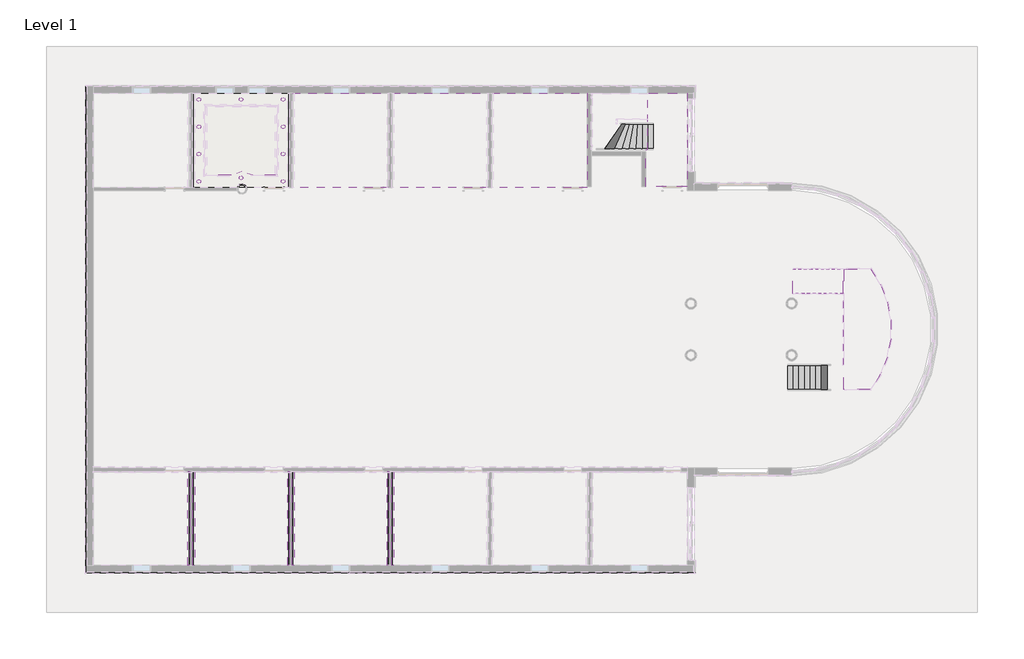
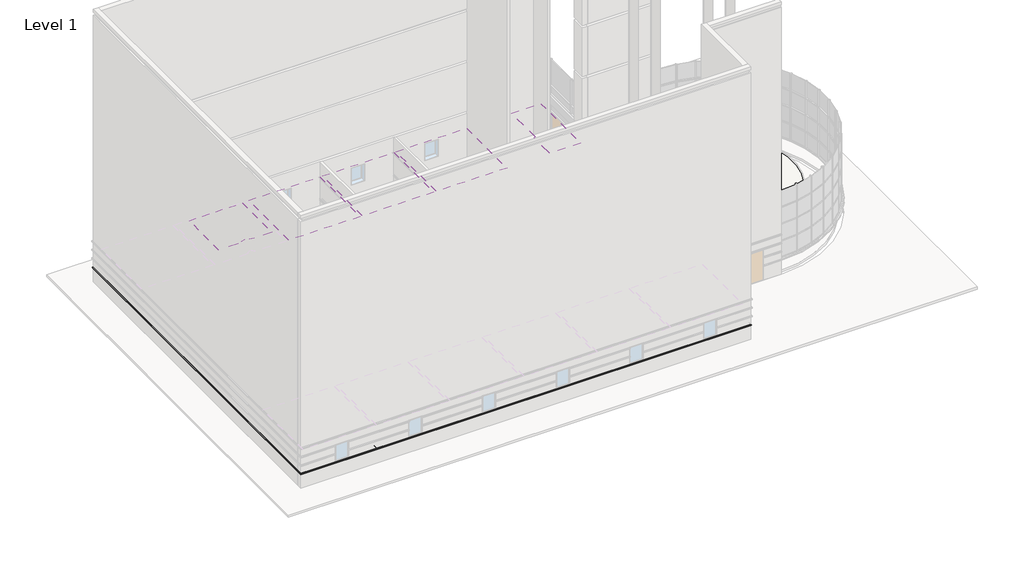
# One storey, part 16 of 20: 20 proxies, 10 light fixtures, 5 coverings, 3 stair flights, 2 slabs.
"""IFC4 building model written with IfcOpenShell, lengths in millimetres."""

from ifc_helpers import new_model, si_unit, point, frame, frame_2d, origin, place, context, project, spatial, polyline, circle_curve, trimmed, segment, composite_curve, outline, extrude, faceted_brep, transform, mapped, element, save
from components import light_fixture_0a2228b3, non_monolithic_landing_b48be56e, stair_flight_ee5305ab, stair_flight_e05df6d8, stair_flight_de9e9dea

model = new_model("IFC4")

# Units and contexts
model_context = context("Model", 3, world=origin())
ifc_project = project(units=[si_unit("LENGTHUNIT", "METRE", prefix="MILLI")], contexts=[model_context])

# Site, building, storey
site = spatial("IfcSite", under=ifc_project)
building = spatial("IfcBuilding", under=site)
storey = spatial("IfcBuildingStorey", under=building, Name="Level 1", Elevation=0.0)

# Proxies
placement = place(None, origin())
element("IfcBuildingElementProxy", 1, Name="Wall Sweeps", at=placement, inside=storey, context=model_context, shape_type="Brep", body=[
    faceted_brep([(12969.0589721, -14605.7351681, 1085.85), (13061.1339721, -14697.8101681, 1085.85), (13096.0589721, -14732.7351681, 1041.4), (13096.0589721, -14732.7351681, 1016.0), (12969.0589721, -14605.7351681, 1016.0), (-17326.7910279, -14605.7351681, 1085.85), (-17326.7910279, -14605.7351681, 1016.0), (-17453.7910279, -14732.7351681, 1016.0), (-17453.7910279, -14732.7351681, 1041.4), (-17418.8660279, -14697.8101681, 1085.85)], [[[0, 1, 2, 3, 4]], [[5, 6, 7, 8, 9]], [[1, 0, 5, 9]], [[2, 1, 9, 8]], [[3, 2, 8, 7]], [[4, 3, 7, 6]], [[0, 4, 6, 5]]]),
])
element("IfcBuildingElementProxy", 2, Name="Wall Sweeps", at=placement, inside=storey, context=model_context, shape_type="Brep", body=[
    faceted_brep([(-17326.7910279, -14605.7351681, 1085.85), (-17418.8660279, -14697.8101681, 1085.85), (-17453.7910279, -14732.7351681, 1041.4), (-17453.7910279, -14732.7351681, 1016.0), (-17326.7910279, -14605.7351681, 1016.0), (-17326.7910279, 9594.1148319, 1085.85), (-17326.7910279, 9594.1148319, 1016.0), (-17453.7910279, 9721.1148319, 1016.0), (-17453.7910279, 9721.1148319, 1041.4), (-17418.8660279, 9686.1898319, 1085.85), (-17326.7910279, -14345.3851681, 1085.85), (-17326.7910279, -14345.3851681, 1016.0)], [[[0, 1, 2, 3, 4]], [[5, 6, 7, 8, 9]], [[1, 0, 10, 5, 9]], [[2, 1, 9, 8]], [[3, 2, 8, 7]], [[4, 3, 7, 6, 11]], [[0, 4, 11, 6, 5, 10]]]),
])
element("IfcBuildingElementProxy", 3, Name="Wall Sweeps", at=placement, inside=storey, context=model_context, shape_type="SweptSolid", body=[
    extrude(outline(composite_curve([segment(polyline([(146.05, -12256.8451947), (0.0, -12256.8451947), (0.0, -12240.9701946), (25.4, -12240.9701946), (26.9875, -12242.5576946), (138.1125, -12242.5576946), (139.7, -12240.9701946), (184.15, -12240.9701946), (184.15, -12247.3201946), (178.4425393, -12249.7662491)]), True, "CONTINUOUS"), segment(trimmed(circle_curve(frame_2d((173.434375, -12253.6701946)), 6.35), [point((178.4425393, -12249.7662491))], [point((169.9015472, -12248.3936779))], True, "CARTESIAN"), True, "CONTINUOUS"), segment(polyline([(169.9015472, -12248.3936779), (159.8244174, -12255.2349707)]), True, "CONTINUOUS"), segment(trimmed(circle_curve(frame_2d((154.447453, -12247.3201946)), 9.5684601), [point((159.8244174, -12255.2349707))], [point((147.838329, -12254.2393642))], False, "CARTESIAN"), True, "CONTINUOUS"), segment(trimmed(circle_curve(frame_2d((147.2928122, -12254.8159494)), 0.79375), [point((147.838329, -12254.2393642))], [point((146.5164076, -12254.6509195))], True, "CARTESIAN"), True, "CONTINUOUS"), segment(polyline([(146.5164076, -12254.6509195), (146.05, -12256.8451947)]), True, "CONTINUOUS")], self_intersect=False)), frame((0.0, -14345.3851681, 0.0), z_axis=(0.0, 1.0, 0.0), x_axis=(0.0, 0.0, 1.0)), (0.0, 0.0, 1.0), 4721.225),
])
element("IfcBuildingElementProxy", 4, Name="Wall Sweeps", at=placement, inside=storey, context=model_context, shape_type="SweptSolid", body=[
    extrude(outline(composite_curve([segment(polyline([(146.05, -12069.5201944), (146.5164076, -12071.7144696)]), True, "CONTINUOUS"), segment(trimmed(circle_curve(frame_2d((147.2928122, -12071.5494397)), 0.79375), [point((146.5164076, -12071.7144696))], [point((147.838329, -12072.126025))], True, "CARTESIAN"), True, "CONTINUOUS"), segment(trimmed(circle_curve(frame_2d((154.447453, -12079.0451946)), 9.5684601), [point((147.838329, -12072.126025))], [point((159.8244174, -12071.1304184))], False, "CARTESIAN"), True, "CONTINUOUS"), segment(polyline([(159.8244174, -12071.1304184), (169.9015472, -12077.9717112)]), True, "CONTINUOUS"), segment(trimmed(circle_curve(frame_2d((173.434375, -12072.6951946)), 6.35), [point((169.9015472, -12077.9717112))], [point((178.4425393, -12076.59914))], True, "CARTESIAN"), True, "CONTINUOUS"), segment(polyline([(178.4425393, -12076.59914), (184.15, -12079.0451946), (184.15, -12085.3951946), (139.7, -12085.3951946), (138.1125, -12083.8076946), (26.9875, -12083.8076946), (25.4, -12085.3951946), (0.0, -12085.3951946), (0.0, -12069.5201944), (146.05, -12069.5201944)]), True, "CONTINUOUS")], self_intersect=False)), frame((0.0, -14345.3851681, 0.0), z_axis=(0.0, 1.0, 0.0), x_axis=(0.0, 0.0, 1.0)), (0.0, 0.0, 1.0), 4721.225),
])
element("IfcBuildingElementProxy", 5, Name="Wall Sweeps", at=placement, inside=storey, context=model_context, shape_type="SweptSolid", body=[
    extrude(outline(composite_curve([segment(polyline([(781.05, -12242.5576946), (882.65, -12242.5576946), (884.2375, -12240.9701946), (901.7, -12240.9701946), (901.7, -12261.6076946), (882.65, -12261.6076946), (882.65, -12259.2264446)]), True, "CONTINUOUS"), segment(trimmed(circle_curve(frame_2d((880.26875, -12254.2063288)), 5.55625), [point((882.65, -12259.2264446))], [point((876.3398879, -12258.1351908))], False, "CARTESIAN"), True, "CONTINUOUS"), segment(trimmed(circle_curve(frame_2d((867.5864328, -12265.9220138)), 11.7156984), [point((876.3398879, -12258.1351908))], [point((867.56875, -12254.2063288))], True, "CARTESIAN"), True, "CONTINUOUS"), segment(polyline([(867.56875, -12254.2063288), (867.56875, -12252.0826946), (796.13125, -12252.0826946), (796.13125, -12254.2063288)]), True, "CONTINUOUS"), segment(trimmed(circle_curve(frame_2d((796.1135672, -12265.9220138)), 11.7156984), [point((796.13125, -12254.2063288))], [point((787.3601121, -12258.1351908))], True, "CARTESIAN"), True, "CONTINUOUS"), segment(trimmed(circle_curve(frame_2d((783.43125, -12254.2063288)), 5.55625), [point((787.3601121, -12258.1351908))], [point((781.05, -12259.2264446))], False, "CARTESIAN"), True, "CONTINUOUS"), segment(polyline([(781.05, -12259.2264446), (781.05, -12261.6076946), (762.0, -12261.6076946), (762.0, -12240.9701946), (779.4625, -12240.9701946), (781.05, -12242.5576946)]), True, "CONTINUOUS")], self_intersect=False)), frame((0.0, -14345.3851681, 0.0), z_axis=(0.0, 1.0, 0.0), x_axis=(0.0, 0.0, 1.0)), (0.0, 0.0, 1.0), 4721.225),
])
element("IfcBuildingElementProxy", 6, Name="Wall Sweeps", at=placement, inside=storey, context=model_context, shape_type="SweptSolid", body=[
    extrude(outline(composite_curve([segment(polyline([(781.05, -12083.8076946), (779.4625, -12085.3951946), (762.0, -12085.3951946), (762.0, -12064.7576946), (781.05, -12064.7576946), (781.05, -12067.1389446)]), True, "CONTINUOUS"), segment(trimmed(circle_curve(frame_2d((783.43125, -12072.1590603)), 5.55625), [point((781.05, -12067.1389446))], [point((787.3601121, -12068.2301983))], False, "CARTESIAN"), True, "CONTINUOUS"), segment(trimmed(circle_curve(frame_2d((796.1135672, -12060.4433753)), 11.7156984), [point((787.3601121, -12068.2301983))], [point((796.13125, -12072.1590603))], True, "CARTESIAN"), True, "CONTINUOUS"), segment(polyline([(796.13125, -12072.1590603), (796.13125, -12074.2826946), (867.56875, -12074.2826946), (867.56875, -12072.1590603)]), True, "CONTINUOUS"), segment(trimmed(circle_curve(frame_2d((867.5864328, -12060.4433753)), 11.7156984), [point((867.56875, -12072.1590603))], [point((876.3398879, -12068.2301983))], True, "CARTESIAN"), True, "CONTINUOUS"), segment(trimmed(circle_curve(frame_2d((880.26875, -12072.1590603)), 5.55625), [point((876.3398879, -12068.2301983))], [point((882.65, -12067.1389446))], False, "CARTESIAN"), True, "CONTINUOUS"), segment(polyline([(882.65, -12067.1389446), (882.65, -12064.7576946), (901.7, -12064.7576946), (901.7, -12085.3951946), (884.2375, -12085.3951946), (882.65, -12083.8076946), (781.05, -12083.8076946)]), True, "CONTINUOUS")], self_intersect=False)), frame((0.0, -14345.3851681, 0.0), z_axis=(0.0, 1.0, 0.0), x_axis=(0.0, 0.0, 1.0)), (0.0, 0.0, 1.0), 4721.225),
])
element("IfcBuildingElementProxy", 7, Name="Wall Sweeps", at=placement, inside=storey, context=model_context, shape_type="SweptSolid", body=[
    extrude(outline(composite_curve([segment(polyline([(2438.399973, -12309.1633571), (2438.399973, -12329.8701946), (2431.2481102, -12329.8701946), (2431.2481102, -12327.3548352)]), True, "CONTINUOUS"), segment(trimmed(circle_curve(frame_2d((2423.9641253, -12331.1893356)), 8.2316359), [point((2431.2481102, -12327.3548352))], [point((2427.7986257, -12323.9053507))], True, "CARTESIAN"), True, "CONTINUOUS"), segment(trimmed(circle_curve(frame_2d((2429.6314026, -12316.0499845)), 8.0663405), [point((2427.7986257, -12323.9053507))], [point((2421.6202934, -12315.1076578))], False, "CARTESIAN"), True, "CONTINUOUS"), segment(polyline([(2421.6202934, -12315.1076578), (2421.6202934, -12312.339094), (2416.1698146, -12312.339094)]), True, "CONTINUOUS"), segment(trimmed(circle_curve(frame_2d((2417.0589994, -12290.5017471)), 21.8554426), [point((2416.1698146, -12312.339094))], [point((2396.8442936, -12298.8099384))], False, "CARTESIAN"), True, "CONTINUOUS"), segment(polyline([(2396.8442936, -12298.8099384), (2392.1194168, -12291.5677091)]), True, "CONTINUOUS"), segment(trimmed(circle_curve(frame_2d((2350.2346746, -12313.0198493)), 47.0587499), [point((2392.1194168, -12291.5677091))], [point((2353.4554653, -12266.0714473))], True, "CARTESIAN"), True, "CONTINUOUS"), segment(polyline([(2353.4554653, -12266.0714473), (2353.4554653, -12262.8440724), (2348.4207604, -12262.8440724), (2348.4207604, -12259.2552315)]), True, "CONTINUOUS"), segment(trimmed(circle_curve(frame_2d((2347.9606001, -12248.767665)), 10.4976568), [point((2348.4207604, -12259.2552315))], [point((2338.0157037, -12252.1291877))], False, "CARTESIAN"), True, "CONTINUOUS"), segment(polyline([(2338.0157037, -12252.1291877), (2333.7297498, -12252.1291877)]), True, "CONTINUOUS"), segment(trimmed(circle_curve(frame_2d((2327.2589154, -12255.4064811)), 7.2534372), [point((2333.7297498, -12252.1291877))], [point((2327.275, -12248.1530618))], True, "CARTESIAN"), True, "CONTINUOUS"), segment(polyline([(2327.275, -12248.1530618), (2327.275, -12240.9701946), (2351.8919306, -12240.9701946), (2438.399973, -12309.1633571)]), True, "CONTINUOUS")], self_intersect=False)), frame((0.0, -14345.3851681, 0.0), z_axis=(0.0, 1.0, 0.0), x_axis=(0.0, 0.0, 1.0)), (0.0, 0.0, 1.0), 4721.225),
])
element("IfcBuildingElementProxy", 8, Name="Wall Sweeps", at=placement, inside=storey, context=model_context, shape_type="SweptSolid", body=[
    extrude(outline(composite_curve([segment(polyline([(2438.399973, -12017.202032), (2351.8919306, -12085.3951946), (2327.275, -12085.3951946), (2327.275, -12078.2123274)]), True, "CONTINUOUS"), segment(trimmed(circle_curve(frame_2d((2327.2589154, -12070.958908)), 7.2534372), [point((2327.275, -12078.2123274))], [point((2333.7297498, -12074.2362015))], True, "CARTESIAN"), True, "CONTINUOUS"), segment(polyline([(2333.7297498, -12074.2362015), (2338.0157037, -12074.2362015)]), True, "CONTINUOUS"), segment(trimmed(circle_curve(frame_2d((2347.9606001, -12077.5977241)), 10.4976568), [point((2338.0157037, -12074.2362015))], [point((2348.4207604, -12067.1101577))], False, "CARTESIAN"), True, "CONTINUOUS"), segment(polyline([(2348.4207604, -12067.1101577), (2348.4207604, -12063.5213168), (2353.4554653, -12063.5213168), (2353.4554653, -12060.2939418)]), True, "CONTINUOUS"), segment(trimmed(circle_curve(frame_2d((2350.2346746, -12013.3455399)), 47.0587499), [point((2353.4554653, -12060.2939418))], [point((2392.1194168, -12034.79768))], True, "CARTESIAN"), True, "CONTINUOUS"), segment(polyline([(2392.1194168, -12034.79768), (2396.8442936, -12027.5554507)]), True, "CONTINUOUS"), segment(trimmed(circle_curve(frame_2d((2417.0589994, -12035.863642)), 21.8554426), [point((2396.8442936, -12027.5554507))], [point((2416.1698146, -12014.0262951))], False, "CARTESIAN"), True, "CONTINUOUS"), segment(polyline([(2416.1698146, -12014.0262951), (2421.6202934, -12014.0262951), (2421.6202934, -12011.2577313)]), True, "CONTINUOUS"), segment(trimmed(circle_curve(frame_2d((2429.6314026, -12010.3154046)), 8.0663405), [point((2421.6202934, -12011.2577313))], [point((2427.7986257, -12002.4600384))], False, "CARTESIAN"), True, "CONTINUOUS"), segment(trimmed(circle_curve(frame_2d((2423.9641253, -11995.1760535)), 8.2316359), [point((2427.7986257, -12002.4600384))], [point((2431.2481102, -11999.010554))], True, "CARTESIAN"), True, "CONTINUOUS"), segment(polyline([(2431.2481102, -11999.010554), (2431.2481102, -11996.4951946), (2438.399973, -11996.4951946), (2438.399973, -12017.202032)]), True, "CONTINUOUS")], self_intersect=False)), frame((0.0, -14345.3851681, 0.0), z_axis=(0.0, 1.0, 0.0), x_axis=(0.0, 0.0, 1.0)), (0.0, 0.0, 1.0), 4721.225),
])
element("IfcBuildingElementProxy", 9, Name="Wall Sweeps", at=placement, inside=storey, context=model_context, shape_type="SweptSolid", body=[
    extrude(outline(composite_curve([segment(polyline([(146.05, -7264.6868613), (0.0, -7264.6868613), (0.0, -7248.8118612), (25.4, -7248.8118612), (26.9875, -7250.3993612), (138.1125, -7250.3993612), (139.7, -7248.8118612), (184.15, -7248.8118612), (184.15, -7255.1618612), (178.4425393, -7257.6079158)]), True, "CONTINUOUS"), segment(trimmed(circle_curve(frame_2d((173.434375, -7261.5118612)), 6.35), [point((178.4425393, -7257.6079158))], [point((169.9015472, -7256.2353446))], True, "CARTESIAN"), True, "CONTINUOUS"), segment(polyline([(169.9015472, -7256.2353446), (159.8244174, -7263.0766374)]), True, "CONTINUOUS"), segment(trimmed(circle_curve(frame_2d((154.447453, -7255.1618612)), 9.5684601), [point((159.8244174, -7263.0766374))], [point((147.838329, -7262.0810308))], False, "CARTESIAN"), True, "CONTINUOUS"), segment(trimmed(circle_curve(frame_2d((147.2928122, -7262.6576161)), 0.79375), [point((147.838329, -7262.0810308))], [point((146.5164076, -7262.4925862))], True, "CARTESIAN"), True, "CONTINUOUS"), segment(polyline([(146.5164076, -7262.4925862), (146.05, -7264.6868613)]), True, "CONTINUOUS")], self_intersect=False)), frame((0.0, -14345.3851681, 0.0), z_axis=(0.0, 1.0, 0.0), x_axis=(0.0, 0.0, 1.0)), (0.0, 0.0, 1.0), 4721.225),
])
element("IfcBuildingElementProxy", 10, Name="Wall Sweeps", at=placement, inside=storey, context=model_context, shape_type="SweptSolid", body=[
    extrude(outline(composite_curve([segment(polyline([(146.05, -7077.3618611), (146.5164076, -7079.5561363)]), True, "CONTINUOUS"), segment(trimmed(circle_curve(frame_2d((147.2928122, -7079.3911064)), 0.79375), [point((146.5164076, -7079.5561363))], [point((147.838329, -7079.9676916))], True, "CARTESIAN"), True, "CONTINUOUS"), segment(trimmed(circle_curve(frame_2d((154.447453, -7086.8868612)), 9.5684601), [point((147.838329, -7079.9676916))], [point((159.8244174, -7078.972085))], False, "CARTESIAN"), True, "CONTINUOUS"), segment(polyline([(159.8244174, -7078.972085), (169.9015472, -7085.8133779)]), True, "CONTINUOUS"), segment(trimmed(circle_curve(frame_2d((173.434375, -7080.5368612)), 6.35), [point((169.9015472, -7085.8133779))], [point((178.4425393, -7084.4408067))], True, "CARTESIAN"), True, "CONTINUOUS"), segment(polyline([(178.4425393, -7084.4408067), (184.15, -7086.8868612), (184.15, -7093.2368612), (139.7, -7093.2368612), (138.1125, -7091.6493612), (26.9875, -7091.6493612), (25.4, -7093.2368612), (0.0, -7093.2368612), (0.0, -7077.3618611), (146.05, -7077.3618611)]), True, "CONTINUOUS")], self_intersect=False)), frame((0.0, -14345.3851681, 0.0), z_axis=(0.0, 1.0, 0.0), x_axis=(0.0, 0.0, 1.0)), (0.0, 0.0, 1.0), 4721.225),
])
element("IfcBuildingElementProxy", 11, Name="Wall Sweeps", at=placement, inside=storey, context=model_context, shape_type="SweptSolid", body=[
    extrude(outline(composite_curve([segment(polyline([(781.05, -7250.3993612), (882.65, -7250.3993612), (884.2375, -7248.8118612), (901.7, -7248.8118612), (901.7, -7269.4493612), (882.65, -7269.4493612), (882.65, -7267.0681112)]), True, "CONTINUOUS"), segment(trimmed(circle_curve(frame_2d((880.26875, -7262.0479954)), 5.55625), [point((882.65, -7267.0681112))], [point((876.3398879, -7265.9768575))], False, "CARTESIAN"), True, "CONTINUOUS"), segment(trimmed(circle_curve(frame_2d((867.5864328, -7273.7636805)), 11.7156984), [point((876.3398879, -7265.9768575))], [point((867.56875, -7262.0479954))], True, "CARTESIAN"), True, "CONTINUOUS"), segment(polyline([(867.56875, -7262.0479954), (867.56875, -7259.9243612), (796.13125, -7259.9243612), (796.13125, -7262.0479954)]), True, "CONTINUOUS"), segment(trimmed(circle_curve(frame_2d((796.1135672, -7273.7636805)), 11.7156984), [point((796.13125, -7262.0479954))], [point((787.3601121, -7265.9768575))], True, "CARTESIAN"), True, "CONTINUOUS"), segment(trimmed(circle_curve(frame_2d((783.43125, -7262.0479954)), 5.55625), [point((787.3601121, -7265.9768575))], [point((781.05, -7267.0681112))], False, "CARTESIAN"), True, "CONTINUOUS"), segment(polyline([(781.05, -7267.0681112), (781.05, -7269.4493612), (762.0, -7269.4493612), (762.0, -7248.8118612), (779.4625, -7248.8118612), (781.05, -7250.3993612)]), True, "CONTINUOUS")], self_intersect=False)), frame((0.0, -14345.3851681, 0.0), z_axis=(0.0, 1.0, 0.0), x_axis=(0.0, 0.0, 1.0)), (0.0, 0.0, 1.0), 4721.225),
])
element("IfcBuildingElementProxy", 12, Name="Wall Sweeps", at=placement, inside=storey, context=model_context, shape_type="SweptSolid", body=[
    extrude(outline(composite_curve([segment(polyline([(781.05, -7091.6493612), (779.4625, -7093.2368612), (762.0, -7093.2368612), (762.0, -7072.5993612), (781.05, -7072.5993612), (781.05, -7074.9806112)]), True, "CONTINUOUS"), segment(trimmed(circle_curve(frame_2d((783.43125, -7080.000727)), 5.55625), [point((781.05, -7074.9806112))], [point((787.3601121, -7076.071865))], False, "CARTESIAN"), True, "CONTINUOUS"), segment(trimmed(circle_curve(frame_2d((796.1135672, -7068.285042)), 11.7156984), [point((787.3601121, -7076.071865))], [point((796.13125, -7080.000727))], True, "CARTESIAN"), True, "CONTINUOUS"), segment(polyline([(796.13125, -7080.000727), (796.13125, -7082.1243612), (867.56875, -7082.1243612), (867.56875, -7080.000727)]), True, "CONTINUOUS"), segment(trimmed(circle_curve(frame_2d((867.5864328, -7068.285042)), 11.7156984), [point((867.56875, -7080.000727))], [point((876.3398879, -7076.071865))], True, "CARTESIAN"), True, "CONTINUOUS"), segment(trimmed(circle_curve(frame_2d((880.26875, -7080.000727)), 5.55625), [point((876.3398879, -7076.071865))], [point((882.65, -7074.9806112))], False, "CARTESIAN"), True, "CONTINUOUS"), segment(polyline([(882.65, -7074.9806112), (882.65, -7072.5993612), (901.7, -7072.5993612), (901.7, -7093.2368612), (884.2375, -7093.2368612), (882.65, -7091.6493612), (781.05, -7091.6493612)]), True, "CONTINUOUS")], self_intersect=False)), frame((0.0, -14345.3851681, 0.0), z_axis=(0.0, 1.0, 0.0), x_axis=(0.0, 0.0, 1.0)), (0.0, 0.0, 1.0), 4721.225),
])
element("IfcBuildingElementProxy", 13, Name="Wall Sweeps", at=placement, inside=storey, context=model_context, shape_type="SweptSolid", body=[
    extrude(outline(composite_curve([segment(polyline([(2438.399973, -7317.0050238), (2438.399973, -7337.7118612), (2431.2481102, -7337.7118612), (2431.2481102, -7335.1965018)]), True, "CONTINUOUS"), segment(trimmed(circle_curve(frame_2d((2423.9641253, -7339.0310023)), 8.2316359), [point((2431.2481102, -7335.1965018))], [point((2427.7986257, -7331.7470174))], True, "CARTESIAN"), True, "CONTINUOUS"), segment(trimmed(circle_curve(frame_2d((2429.6314026, -7323.8916512)), 8.0663405), [point((2427.7986257, -7331.7470174))], [point((2421.6202934, -7322.9493245))], False, "CARTESIAN"), True, "CONTINUOUS"), segment(polyline([(2421.6202934, -7322.9493245), (2421.6202934, -7320.1807607), (2416.1698146, -7320.1807607)]), True, "CONTINUOUS"), segment(trimmed(circle_curve(frame_2d((2417.0589994, -7298.3434138)), 21.8554426), [point((2416.1698146, -7320.1807607))], [point((2396.8442936, -7306.6516051))], False, "CARTESIAN"), True, "CONTINUOUS"), segment(polyline([(2396.8442936, -7306.6516051), (2392.1194168, -7299.4093758)]), True, "CONTINUOUS"), segment(trimmed(circle_curve(frame_2d((2350.2346746, -7320.8615159)), 47.0587499), [point((2392.1194168, -7299.4093758))], [point((2353.4554653, -7273.9131139))], True, "CARTESIAN"), True, "CONTINUOUS"), segment(polyline([(2353.4554653, -7273.9131139), (2353.4554653, -7270.685739), (2348.4207604, -7270.685739), (2348.4207604, -7267.0968981)]), True, "CONTINUOUS"), segment(trimmed(circle_curve(frame_2d((2347.9606001, -7256.6093317)), 10.4976568), [point((2348.4207604, -7267.0968981))], [point((2338.0157037, -7259.9708543))], False, "CARTESIAN"), True, "CONTINUOUS"), segment(polyline([(2338.0157037, -7259.9708543), (2333.7297498, -7259.9708543)]), True, "CONTINUOUS"), segment(trimmed(circle_curve(frame_2d((2327.2589154, -7263.2481478)), 7.2534372), [point((2333.7297498, -7259.9708543))], [point((2327.275, -7255.9947284))], True, "CARTESIAN"), True, "CONTINUOUS"), segment(polyline([(2327.275, -7255.9947284), (2327.275, -7248.8118612), (2351.8919306, -7248.8118612), (2438.399973, -7317.0050238)]), True, "CONTINUOUS")], self_intersect=False)), frame((0.0, -14345.3851681, 0.0), z_axis=(0.0, 1.0, 0.0), x_axis=(0.0, 0.0, 1.0)), (0.0, 0.0, 1.0), 4721.225),
])
element("IfcBuildingElementProxy", 14, Name="Wall Sweeps", at=placement, inside=storey, context=model_context, shape_type="SweptSolid", body=[
    extrude(outline(composite_curve([segment(polyline([(2438.399973, -7025.0436987), (2351.8919306, -7093.2368612), (2327.275, -7093.2368612), (2327.275, -7086.053994)]), True, "CONTINUOUS"), segment(trimmed(circle_curve(frame_2d((2327.2589154, -7078.8005747)), 7.2534372), [point((2327.275, -7086.053994))], [point((2333.7297498, -7082.0778681))], True, "CARTESIAN"), True, "CONTINUOUS"), segment(polyline([(2333.7297498, -7082.0778681), (2338.0157037, -7082.0778681)]), True, "CONTINUOUS"), segment(trimmed(circle_curve(frame_2d((2347.9606001, -7085.4393908)), 10.4976568), [point((2338.0157037, -7082.0778681))], [point((2348.4207604, -7074.9518243))], False, "CARTESIAN"), True, "CONTINUOUS"), segment(polyline([(2348.4207604, -7074.9518243), (2348.4207604, -7071.3629834), (2353.4554653, -7071.3629834), (2353.4554653, -7068.1356085)]), True, "CONTINUOUS"), segment(trimmed(circle_curve(frame_2d((2350.2346746, -7021.1872065)), 47.0587499), [point((2353.4554653, -7068.1356085))], [point((2392.1194168, -7042.6393467))], True, "CARTESIAN"), True, "CONTINUOUS"), segment(polyline([(2392.1194168, -7042.6393467), (2396.8442936, -7035.3971174)]), True, "CONTINUOUS"), segment(trimmed(circle_curve(frame_2d((2417.0589994, -7043.7053087)), 21.8554426), [point((2396.8442936, -7035.3971174))], [point((2416.1698146, -7021.8679618))], False, "CARTESIAN"), True, "CONTINUOUS"), segment(polyline([(2416.1698146, -7021.8679618), (2421.6202934, -7021.8679618), (2421.6202934, -7019.099398)]), True, "CONTINUOUS"), segment(trimmed(circle_curve(frame_2d((2429.6314026, -7018.1570713)), 8.0663405), [point((2421.6202934, -7019.099398))], [point((2427.7986257, -7010.3017051))], False, "CARTESIAN"), True, "CONTINUOUS"), segment(trimmed(circle_curve(frame_2d((2423.9641253, -7003.0177202)), 8.2316359), [point((2427.7986257, -7010.3017051))], [point((2431.2481102, -7006.8522206))], True, "CARTESIAN"), True, "CONTINUOUS"), segment(polyline([(2431.2481102, -7006.8522206), (2431.2481102, -7004.3368612), (2438.399973, -7004.3368612), (2438.399973, -7025.0436987)]), True, "CONTINUOUS")], self_intersect=False)), frame((0.0, -14345.3851681, 0.0), z_axis=(0.0, 1.0, 0.0), x_axis=(0.0, 0.0, 1.0)), (0.0, 0.0, 1.0), 4721.225),
])
element("IfcBuildingElementProxy", 15, Name="Wall Sweeps", at=placement, inside=storey, context=model_context, shape_type="SweptSolid", body=[
    extrude(outline(composite_curve([segment(polyline([(146.05, -2272.528528), (0.0, -2272.528528), (0.0, -2256.6535279), (25.4, -2256.6535279), (26.9875, -2258.2410279), (138.1125, -2258.2410279), (139.7, -2256.6535279), (184.15, -2256.6535279), (184.15, -2263.0035279), (178.4425393, -2265.4495825)]), True, "CONTINUOUS"), segment(trimmed(circle_curve(frame_2d((173.434375, -2269.3535279)), 6.35), [point((178.4425393, -2265.4495825))], [point((169.9015472, -2264.0770113))], True, "CARTESIAN"), True, "CONTINUOUS"), segment(polyline([(169.9015472, -2264.0770113), (159.8244174, -2270.9183041)]), True, "CONTINUOUS"), segment(trimmed(circle_curve(frame_2d((154.447453, -2263.0035279)), 9.5684601), [point((159.8244174, -2270.9183041))], [point((147.838329, -2269.9226975))], False, "CARTESIAN"), True, "CONTINUOUS"), segment(trimmed(circle_curve(frame_2d((147.2928122, -2270.4992828)), 0.79375), [point((147.838329, -2269.9226975))], [point((146.5164076, -2270.3342529))], True, "CARTESIAN"), True, "CONTINUOUS"), segment(polyline([(146.5164076, -2270.3342529), (146.05, -2272.528528)]), True, "CONTINUOUS")], self_intersect=False)), frame((0.0, -14345.3851681, 0.0), z_axis=(0.0, 1.0, 0.0), x_axis=(0.0, 0.0, 1.0)), (0.0, 0.0, 1.0), 4721.225),
])
element("IfcBuildingElementProxy", 16, Name="Wall Sweeps", at=placement, inside=storey, context=model_context, shape_type="SweptSolid", body=[
    extrude(outline(composite_curve([segment(polyline([(146.05, -2085.2035278), (146.5164076, -2087.3978029)]), True, "CONTINUOUS"), segment(trimmed(circle_curve(frame_2d((147.2928122, -2087.232773)), 0.79375), [point((146.5164076, -2087.3978029))], [point((147.838329, -2087.8093583))], True, "CARTESIAN"), True, "CONTINUOUS"), segment(trimmed(circle_curve(frame_2d((154.447453, -2094.7285279)), 9.5684601), [point((147.838329, -2087.8093583))], [point((159.8244174, -2086.8137517))], False, "CARTESIAN"), True, "CONTINUOUS"), segment(polyline([(159.8244174, -2086.8137517), (169.9015472, -2093.6550445)]), True, "CONTINUOUS"), segment(trimmed(circle_curve(frame_2d((173.434375, -2088.3785279)), 6.35), [point((169.9015472, -2093.6550445))], [point((178.4425393, -2092.2824733))], True, "CARTESIAN"), True, "CONTINUOUS"), segment(polyline([(178.4425393, -2092.2824733), (184.15, -2094.7285279), (184.15, -2101.0785279), (139.7, -2101.0785279), (138.1125, -2099.4910279), (26.9875, -2099.4910279), (25.4, -2101.0785279), (0.0, -2101.0785279), (0.0, -2085.2035278), (146.05, -2085.2035278)]), True, "CONTINUOUS")], self_intersect=False)), frame((0.0, -14345.3851681, 0.0), z_axis=(0.0, 1.0, 0.0), x_axis=(0.0, 0.0, 1.0)), (0.0, 0.0, 1.0), 4721.225),
])
element("IfcBuildingElementProxy", 17, Name="Wall Sweeps", at=placement, inside=storey, context=model_context, shape_type="SweptSolid", body=[
    extrude(outline(composite_curve([segment(polyline([(781.05, -2258.2410279), (882.65, -2258.2410279), (884.2375, -2256.6535279), (901.7, -2256.6535279), (901.7, -2277.2910279), (882.65, -2277.2910279), (882.65, -2274.9097779)]), True, "CONTINUOUS"), segment(trimmed(circle_curve(frame_2d((880.26875, -2269.8896621)), 5.55625), [point((882.65, -2274.9097779))], [point((876.3398879, -2273.8185242))], False, "CARTESIAN"), True, "CONTINUOUS"), segment(trimmed(circle_curve(frame_2d((867.5864328, -2281.6053472)), 11.7156984), [point((876.3398879, -2273.8185242))], [point((867.56875, -2269.8896621))], True, "CARTESIAN"), True, "CONTINUOUS"), segment(polyline([(867.56875, -2269.8896621), (867.56875, -2267.7660279), (796.13125, -2267.7660279), (796.13125, -2269.8896621)]), True, "CONTINUOUS"), segment(trimmed(circle_curve(frame_2d((796.1135672, -2281.6053472)), 11.7156984), [point((796.13125, -2269.8896621))], [point((787.3601121, -2273.8185242))], True, "CARTESIAN"), True, "CONTINUOUS"), segment(trimmed(circle_curve(frame_2d((783.43125, -2269.8896621)), 5.55625), [point((787.3601121, -2273.8185242))], [point((781.05, -2274.9097779))], False, "CARTESIAN"), True, "CONTINUOUS"), segment(polyline([(781.05, -2274.9097779), (781.05, -2277.2910279), (762.0, -2277.2910279), (762.0, -2256.6535279), (779.4625, -2256.6535279), (781.05, -2258.2410279)]), True, "CONTINUOUS")], self_intersect=False)), frame((0.0, -14345.3851681, 0.0), z_axis=(0.0, 1.0, 0.0), x_axis=(0.0, 0.0, 1.0)), (0.0, 0.0, 1.0), 4721.225),
])
element("IfcBuildingElementProxy", 18, Name="Wall Sweeps", at=placement, inside=storey, context=model_context, shape_type="SweptSolid", body=[
    extrude(outline(composite_curve([segment(polyline([(781.05, -2099.4910279), (779.4625, -2101.0785279), (762.0, -2101.0785279), (762.0, -2080.4410279), (781.05, -2080.4410279), (781.05, -2082.8222779)]), True, "CONTINUOUS"), segment(trimmed(circle_curve(frame_2d((783.43125, -2087.8423937)), 5.55625), [point((781.05, -2082.8222779))], [point((787.3601121, -2083.9135316))], False, "CARTESIAN"), True, "CONTINUOUS"), segment(trimmed(circle_curve(frame_2d((796.1135672, -2076.1267086)), 11.7156984), [point((787.3601121, -2083.9135316))], [point((796.13125, -2087.8423937))], True, "CARTESIAN"), True, "CONTINUOUS"), segment(polyline([(796.13125, -2087.8423937), (796.13125, -2089.9660279), (867.56875, -2089.9660279), (867.56875, -2087.8423937)]), True, "CONTINUOUS"), segment(trimmed(circle_curve(frame_2d((867.5864328, -2076.1267086)), 11.7156984), [point((867.56875, -2087.8423937))], [point((876.3398879, -2083.9135316))], True, "CARTESIAN"), True, "CONTINUOUS"), segment(trimmed(circle_curve(frame_2d((880.26875, -2087.8423937)), 5.55625), [point((876.3398879, -2083.9135316))], [point((882.65, -2082.8222779))], False, "CARTESIAN"), True, "CONTINUOUS"), segment(polyline([(882.65, -2082.8222779), (882.65, -2080.4410279), (901.7, -2080.4410279), (901.7, -2101.0785279), (884.2375, -2101.0785279), (882.65, -2099.4910279), (781.05, -2099.4910279)]), True, "CONTINUOUS")], self_intersect=False)), frame((0.0, -14345.3851681, 0.0), z_axis=(0.0, 1.0, 0.0), x_axis=(0.0, 0.0, 1.0)), (0.0, 0.0, 1.0), 4721.225),
])
element("IfcBuildingElementProxy", 19, Name="Wall Sweeps", at=placement, inside=storey, context=model_context, shape_type="SweptSolid", body=[
    extrude(outline(composite_curve([segment(polyline([(2438.399973, -2324.8466905), (2438.399973, -2345.5535279), (2431.2481102, -2345.5535279), (2431.2481102, -2343.0381685)]), True, "CONTINUOUS"), segment(trimmed(circle_curve(frame_2d((2423.9641253, -2346.8726689)), 8.2316359), [point((2431.2481102, -2343.0381685))], [point((2427.7986257, -2339.588684))], True, "CARTESIAN"), True, "CONTINUOUS"), segment(trimmed(circle_curve(frame_2d((2429.6314026, -2331.7333178)), 8.0663405), [point((2427.7986257, -2339.588684))], [point((2421.6202934, -2330.7909911))], False, "CARTESIAN"), True, "CONTINUOUS"), segment(polyline([(2421.6202934, -2330.7909911), (2421.6202934, -2328.0224274), (2416.1698146, -2328.0224274)]), True, "CONTINUOUS"), segment(trimmed(circle_curve(frame_2d((2417.0589994, -2306.1850804)), 21.8554426), [point((2416.1698146, -2328.0224274))], [point((2396.8442936, -2314.4932717))], False, "CARTESIAN"), True, "CONTINUOUS"), segment(polyline([(2396.8442936, -2314.4932717), (2392.1194168, -2307.2510424)]), True, "CONTINUOUS"), segment(trimmed(circle_curve(frame_2d((2350.2346746, -2328.7031826)), 47.0587499), [point((2392.1194168, -2307.2510424))], [point((2353.4554653, -2281.7547806))], True, "CARTESIAN"), True, "CONTINUOUS"), segment(polyline([(2353.4554653, -2281.7547806), (2353.4554653, -2278.5274057), (2348.4207604, -2278.5274057), (2348.4207604, -2274.9385648)]), True, "CONTINUOUS"), segment(trimmed(circle_curve(frame_2d((2347.9606001, -2264.4509983)), 10.4976568), [point((2348.4207604, -2274.9385648))], [point((2338.0157037, -2267.812521))], False, "CARTESIAN"), True, "CONTINUOUS"), segment(polyline([(2338.0157037, -2267.812521), (2333.7297498, -2267.812521)]), True, "CONTINUOUS"), segment(trimmed(circle_curve(frame_2d((2327.2589154, -2271.0898145)), 7.2534372), [point((2333.7297498, -2267.812521))], [point((2327.275, -2263.8363951))], True, "CARTESIAN"), True, "CONTINUOUS"), segment(polyline([(2327.275, -2263.8363951), (2327.275, -2256.6535279), (2351.8919306, -2256.6535279), (2438.399973, -2324.8466905)]), True, "CONTINUOUS")], self_intersect=False)), frame((0.0, -14345.3851681, 0.0), z_axis=(0.0, 1.0, 0.0), x_axis=(0.0, 0.0, 1.0)), (0.0, 0.0, 1.0), 4721.225),
])
element("IfcBuildingElementProxy", 20, Name="Wall Sweeps", at=placement, inside=storey, context=model_context, shape_type="SweptSolid", body=[
    extrude(outline(composite_curve([segment(polyline([(2438.399973, -2032.8853653), (2351.8919306, -2101.0785279), (2327.275, -2101.0785279), (2327.275, -2093.8956607)]), True, "CONTINUOUS"), segment(trimmed(circle_curve(frame_2d((2327.2589154, -2086.6422413)), 7.2534372), [point((2327.275, -2093.8956607))], [point((2333.7297498, -2089.9195348))], True, "CARTESIAN"), True, "CONTINUOUS"), segment(polyline([(2333.7297498, -2089.9195348), (2338.0157037, -2089.9195348)]), True, "CONTINUOUS"), segment(trimmed(circle_curve(frame_2d((2347.9606001, -2093.2810575)), 10.4976568), [point((2338.0157037, -2089.9195348))], [point((2348.4207604, -2082.793491))], False, "CARTESIAN"), True, "CONTINUOUS"), segment(polyline([(2348.4207604, -2082.793491), (2348.4207604, -2079.2046501), (2353.4554653, -2079.2046501), (2353.4554653, -2075.9772752)]), True, "CONTINUOUS"), segment(trimmed(circle_curve(frame_2d((2350.2346746, -2029.0288732)), 47.0587499), [point((2353.4554653, -2075.9772752))], [point((2392.1194168, -2050.4810134))], True, "CARTESIAN"), True, "CONTINUOUS"), segment(polyline([(2392.1194168, -2050.4810134), (2396.8442936, -2043.2387841)]), True, "CONTINUOUS"), segment(trimmed(circle_curve(frame_2d((2417.0589994, -2051.5469754)), 21.8554426), [point((2396.8442936, -2043.2387841))], [point((2416.1698146, -2029.7096284))], False, "CARTESIAN"), True, "CONTINUOUS"), segment(polyline([(2416.1698146, -2029.7096284), (2421.6202934, -2029.7096284), (2421.6202934, -2026.9410646)]), True, "CONTINUOUS"), segment(trimmed(circle_curve(frame_2d((2429.6314026, -2025.998738)), 8.0663405), [point((2421.6202934, -2026.9410646))], [point((2427.7986257, -2018.1433718))], False, "CARTESIAN"), True, "CONTINUOUS"), segment(trimmed(circle_curve(frame_2d((2423.9641253, -2010.8593868)), 8.2316359), [point((2427.7986257, -2018.1433718))], [point((2431.2481102, -2014.6938873))], True, "CARTESIAN"), True, "CONTINUOUS"), segment(polyline([(2431.2481102, -2014.6938873), (2431.2481102, -2012.1785279), (2438.399973, -2012.1785279), (2438.399973, -2032.8853653)]), True, "CONTINUOUS")], self_intersect=False)), frame((0.0, -14345.3851681, 0.0), z_axis=(0.0, 1.0, 0.0), x_axis=(0.0, 0.0, 1.0)), (0.0, 0.0, 1.0), 4721.225),
])

# Coverings
element("IfcCovering", 21, ObjectType="2' x 2' ACT System", at=placement, inside=storey, context=model_context, shape_type="SweptSolid", body=[
    extrude(outline(composite_curve([segment(polyline([(-11475.7951946, 5222.1398319), (-11475.7951946, 8724.1648319), (-7858.4118612, 8724.1648319), (-7858.4118612, 5222.1398319), (-9084.2803391, 5222.1398319)]), True, "CONTINUOUS"), segment(trimmed(circle_curve(frame_2d((-9622.6535279, 4534.7523319)), 873.125), [point((-9084.2803391, 5222.1398319))], [point((-10161.0267167, 5222.1398319))], True, "CARTESIAN"), True, "CONTINUOUS"), segment(polyline([(-10161.0267167, 5222.1398319), (-11475.7951946, 5222.1398319)]), True, "CONTINUOUS")], self_intersect=False)), frame((0.0, 0.0, 2895.6), z_axis=(0.0, 0.0, 1.0), x_axis=(1.0, 0.0, 0.0)), (0.0, 0.0, 1.0), 57.15),
])
element("IfcCovering", 22, ObjectType="2' x 4' ACT System", at=placement, inside=storey, context=model_context, shape_type="SweptSolid", body=[
    extrude(outline(polyline([(-7093.2368612, 9333.7648319), (-2256.6535279, 9333.7648319), (-2256.6535279, 4612.5398319), (-7093.2368612, 4612.5398319), (-7093.2368612, 9333.7648319)])), frame((0.0, 0.0, 2438.4), z_axis=(0.0, 0.0, 1.0), x_axis=(1.0, 0.0, 0.0)), (0.0, 0.0, 1.0), 57.15),
])
element("IfcCovering", 23, ObjectType="2' x 4' ACT System", at=placement, inside=storey, context=model_context, shape_type="SweptSolid", body=[
    extrude(outline(polyline([(-2101.0785279, 9333.7648319), (2735.5048054, 9333.7648319), (2735.5048054, 4612.5398319), (-2101.0785279, 4612.5398319), (-2101.0785279, 9333.7648319)])), frame((0.0, 0.0, 2438.4), z_axis=(0.0, 0.0, 1.0), x_axis=(1.0, 0.0, 0.0)), (0.0, 0.0, 1.0), 57.15),
])
element("IfcCovering", 24, ObjectType="2' x 4' ACT System", at=placement, inside=storey, context=model_context, shape_type="SweptSolid", body=[
    extrude(outline(polyline([(2891.0798054, 9333.7648319), (7689.5631388, 9333.7648319), (7689.5631388, 4612.5398319), (2891.0798054, 4612.5398319), (2891.0798054, 9333.7648319)])), frame((0.0, 0.0, 2438.4), z_axis=(0.0, 0.0, 1.0), x_axis=(1.0, 0.0, 0.0)), (0.0, 0.0, 1.0), 57.15),
])
element("IfcCovering", 25, ObjectType="2' x 4' ACT System", at=placement, inside=storey, context=model_context, shape_type="SweptSolid", body=[
    extrude(outline(polyline([(7883.2381388, 6410.2148319), (7883.2381388, 9333.7648319), (7883.7381388, 9333.7648319), (7883.7381388, 6410.2148319), (7883.2381388, 6410.2148319)])), frame((0.0, 0.0, 2438.4), z_axis=(0.0, 0.0, 1.0), x_axis=(1.0, 0.0, 0.0)), (0.0, 0.0, 1.0), 57.15),
    extrude(outline(polyline([(12708.7089721, 4650.6398319), (10616.9131388, 4650.6398319), (10616.9131388, 6514.3648319), (10718.2353862, 6514.3648319), (10718.2353862, 9333.7648319), (12708.7089721, 9333.7648319), (12708.7089721, 4650.6398319)])), frame((0.0, 0.0, 2438.4), z_axis=(0.0, 0.0, 1.0), x_axis=(1.0, 0.0, 0.0)), (0.0, 0.0, 1.0), 57.15),
])

# Light fixtures
light_fixture_shape = light_fixture_0a2228b3(model_context)
element("IfcLightFixture", 26, ObjectType="Downlight - Recessed Can : 8\" Incandescent - 277V", at=placement, inside=storey, context=model_context, shape_type="MappedRepresentation", body=[
    mapped(light_fixture_shape, transform((-11780.5951946, 9028.9648319, 2438.4), x_axis=(1.0, 0.0, 0.0), y_axis=(0.0, -1.0, 0.0), z_axis=(0.0, 0.0, -1.0))),
])
element("IfcLightFixture", 27, ObjectType="Downlight - Recessed Can : 8\" Incandescent - 277V", at=placement, inside=storey, context=model_context, shape_type="MappedRepresentation", body=[
    mapped(light_fixture_shape, transform((-7553.6118612, 9028.9648319, 2438.4), x_axis=(1.0, 0.0, 0.0), y_axis=(0.0, -1.0, 0.0), z_axis=(0.0, 0.0, -1.0))),
])
element("IfcLightFixture", 28, ObjectType="Downlight - Recessed Can : 8\" Incandescent - 277V", at=placement, inside=storey, context=model_context, shape_type="MappedRepresentation", body=[
    mapped(light_fixture_shape, transform((-9667.1035279, 9028.9648319, 2438.4), x_axis=(1.0, 0.0, 0.0), y_axis=(0.0, -1.0, 0.0), z_axis=(0.0, 0.0, -1.0))),
])
element("IfcLightFixture", 29, ObjectType="Downlight - Recessed Can : 8\" Incandescent - 277V", at=placement, inside=storey, context=model_context, shape_type="MappedRepresentation", body=[
    mapped(light_fixture_shape, transform((-11780.5951946, 4917.3398319, 2438.4), x_axis=(1.0, 0.0, 0.0), y_axis=(0.0, -1.0, 0.0), z_axis=(0.0, 0.0, -1.0))),
])
element("IfcLightFixture", 30, ObjectType="Downlight - Recessed Can : 8\" Incandescent - 277V", at=placement, inside=storey, context=model_context, shape_type="MappedRepresentation", body=[
    mapped(light_fixture_shape, transform((-7553.6118612, 4917.3398319, 2438.4), x_axis=(1.0, 0.0, 0.0), y_axis=(0.0, -1.0, 0.0), z_axis=(0.0, 0.0, -1.0))),
])
element("IfcLightFixture", 31, ObjectType="Downlight - Recessed Can : 8\" Incandescent - 277V", at=placement, inside=storey, context=model_context, shape_type="MappedRepresentation", body=[
    mapped(light_fixture_shape, transform((-11780.5951946, 7658.4231653, 2438.4), x_axis=(1.0, 0.0, 0.0), y_axis=(0.0, -1.0, 0.0), z_axis=(0.0, 0.0, -1.0))),
])
element("IfcLightFixture", 32, ObjectType="Downlight - Recessed Can : 8\" Incandescent - 277V", at=placement, inside=storey, context=model_context, shape_type="MappedRepresentation", body=[
    mapped(light_fixture_shape, transform((-7553.6118612, 7658.4231653, 2438.4), x_axis=(1.0, 0.0, 0.0), y_axis=(0.0, -1.0, 0.0), z_axis=(0.0, 0.0, -1.0))),
])
element("IfcLightFixture", 33, ObjectType="Downlight - Recessed Can : 8\" Incandescent - 277V", at=placement, inside=storey, context=model_context, shape_type="MappedRepresentation", body=[
    mapped(light_fixture_shape, transform((-11780.5951946, 6287.8814986, 2438.4), x_axis=(1.0, 0.0, 0.0), y_axis=(0.0, -1.0, 0.0), z_axis=(0.0, 0.0, -1.0))),
])
element("IfcLightFixture", 34, ObjectType="Downlight - Recessed Can : 8\" Incandescent - 277V", at=placement, inside=storey, context=model_context, shape_type="MappedRepresentation", body=[
    mapped(light_fixture_shape, transform((-7553.6118612, 6287.8814986, 2438.4), x_axis=(1.0, 0.0, 0.0), y_axis=(0.0, -1.0, 0.0), z_axis=(0.0, 0.0, -1.0))),
])
element("IfcLightFixture", 35, ObjectType="Downlight - Recessed Can : 8\" Incandescent - 277V", at=placement, inside=storey, context=model_context, shape_type="MappedRepresentation", body=[
    mapped(light_fixture_shape, transform((-9667.1035279, 5095.1398319, 2438.4), x_axis=(1.0, 0.0, 0.0), y_axis=(0.0, -1.0, 0.0), z_axis=(0.0, 0.0, -1.0))),
])

# Slabs
element("IfcSlab", 36, ObjectType="Slab on Grade With Wood Floring", at=placement, inside=storey, context=model_context, shape_type="SweptSolid", body=[
    extrude(outline(polyline([(-12085.3951946, 9333.7648319), (-7248.8118612, 9333.7648319), (-7248.8118612, 4612.5398319), (-12085.3951946, 4612.5398319), (-12085.3951946, 9333.7648319)])), frame((0.0, 0.0, -152.4), z_axis=(0.0, 0.0, 1.0), x_axis=(1.0, 0.0, 0.0)), (0.0, 0.0, 1.0), 152.4),
])
non_monolithic_landing_shape = non_monolithic_landing_b48be56e(model_context)
element("IfcSlab", 37, ObjectType="Non-Monolithic Landing", at=placement, inside=storey, context=model_context, shape_type="MappedRepresentation", body=[
    mapped(non_monolithic_landing_shape, transform((0.0, 0.0, 0.0), x_axis=(1.0, 0.0, 0.0), y_axis=(0.0, 1.0, 0.0), z_axis=(0.0, 0.0, 1.0))),
])

# Stair flights
stair_flight_shape = stair_flight_ee5305ab(model_context)
element("IfcStairFlight", 38, ObjectType="2\" Tread 1\" Nosing 1/4\" Riser", at=placement, inside=storey, context=model_context, shape_type="MappedRepresentation", body=[
    mapped(stair_flight_shape, transform((0.0, 0.0, 0.0), x_axis=(1.0, 0.0, 0.0), y_axis=(0.0, 1.0, 0.0), z_axis=(0.0, 0.0, 1.0))),
])
stair_flight_2_shape = stair_flight_e05df6d8(model_context)
element("IfcStairFlight", 39, ObjectType="2\" Tread 1\" Nosing 1/4\" Riser", at=placement, inside=storey, context=model_context, shape_type="MappedRepresentation", body=[
    mapped(stair_flight_2_shape, transform((0.0, 0.0, 0.0), x_axis=(1.0, 0.0, 0.0), y_axis=(0.0, 1.0, 0.0), z_axis=(0.0, 0.0, 1.0))),
])
stair_flight_3_shape = stair_flight_de9e9dea(model_context)
element("IfcStairFlight", 40, ObjectType="2\" Tread 1\" Nosing 1/4\" Riser", at=placement, inside=storey, context=model_context, shape_type="MappedRepresentation", body=[
    mapped(stair_flight_3_shape, transform((0.0, 0.0, 0.0), x_axis=(1.0, 0.0, 0.0), y_axis=(0.0, 1.0, 0.0), z_axis=(0.0, 0.0, 1.0))),
])

save(model, "model.ifc")
